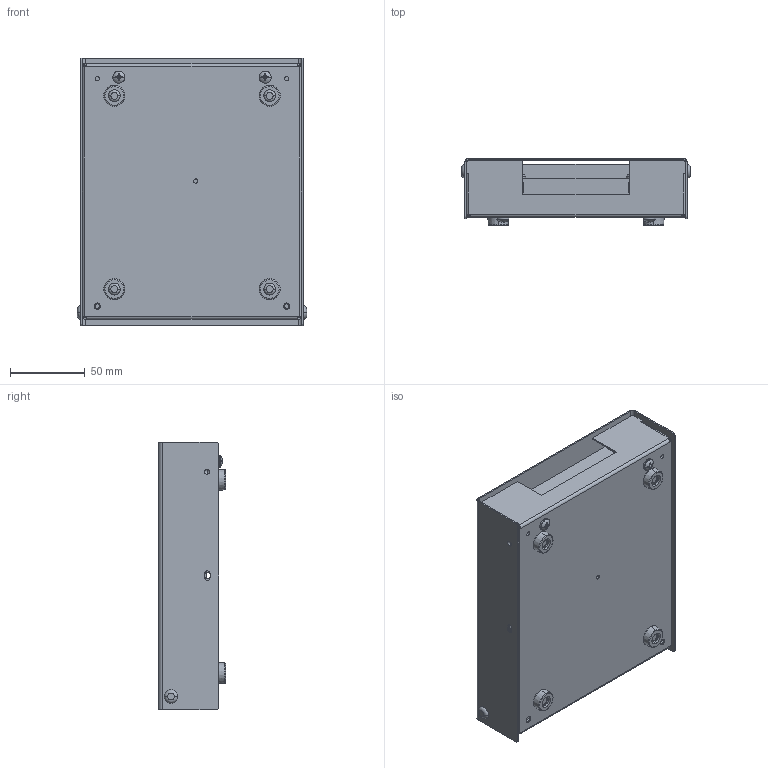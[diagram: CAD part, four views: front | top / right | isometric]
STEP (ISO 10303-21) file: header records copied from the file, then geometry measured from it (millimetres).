
FILE_DESCRIPTION((''),'2;1');
FILE_NAME('CU_SCB-68','2007-08-14T',('lmcdanie'),(''),'PRO/ENGINEER BY PARAMETRIC TECHNOLOGY CORPORATION, 2006080','PRO/ENGINEER BY PARAMETRIC TECHNOLOGY CORPORATION, 2006080','');
FILE_SCHEMA(('CONFIG_CONTROL_DESIGN'));
Length unit declared in the file: inch
Products named in the file (1): CU_SCB-68
Bounding box: 153.57 x 44.96 x 179.32 mm (x, y, z)
Volume: 127832.8 mm3; surface area: 212735.3 mm2
Topology: 1 solids, 2 shells, 722 faces, 1794 edges, 1000 vertices
Faces by surface type: plane 300, cylinder 182, bspline 136, torus 40, sphere 36, cone 28
Entity records: 23716 total; most frequent: CARTESIAN_POINT 7570, ORIENTED_EDGE 3308, DIRECTION 3266, EDGE_CURVE 1654, AXIS2_PLACEMENT_3D 1254, VERTEX_POINT 1114, EDGE_LOOP 824, VECTOR 758
